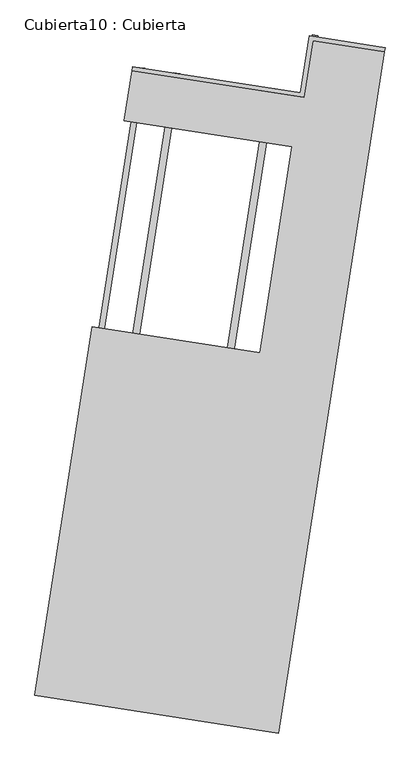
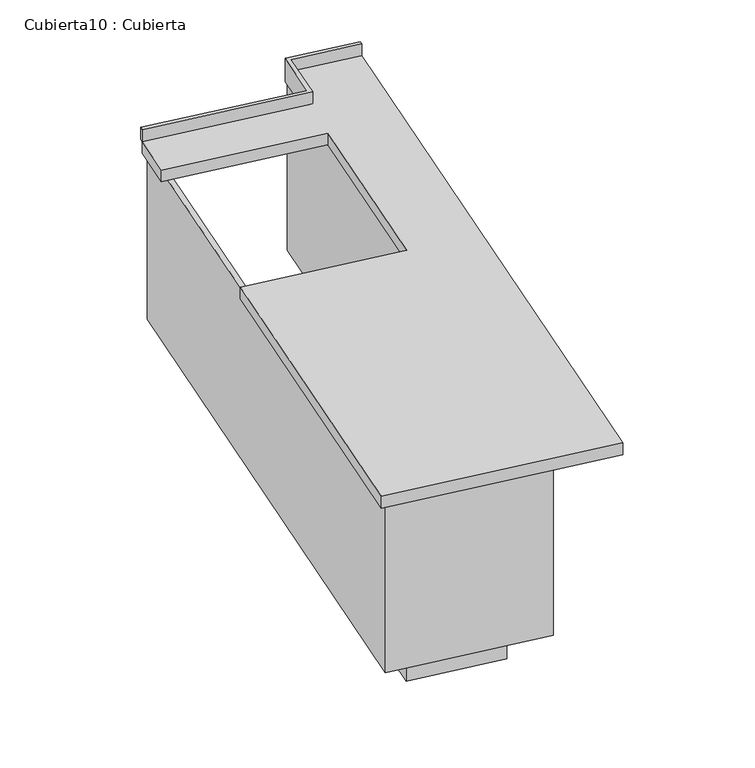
"""IFC4 building model written with IfcOpenShell, lengths in millimetres: furniture geometry, Cubierta10 : Cubierta."""

from ifc_helpers import new_model, si_unit, frame, origin, place, context, project, spatial, polyline, outline, extrude, faceted_brep, source, transform, mapped, element, save


def cubierta10_cubierta_652fd00e(model_context):
    return source(origin(), model_context, "Body", "SolidModel", [
        extrude(outline(polyline([(-43936.5908069, -74222.4568055), (-44307.1167938, -74164.7031034), (-43972.9153501, -72020.5925913), (-43948.2136174, -72024.4428381), (-44278.5648142, -74143.8516176), (-43957.4422928, -74193.904826), (-43627.0910965, -72074.4960484), (-43602.3893638, -72078.3462952), (-43936.5908069, -74222.4568055)])), frame((0.0, 0.0, 3200.0), z_axis=(0.0, 0.0, 1.0), x_axis=(1.0, 0.0, 0.0)), (0.0, 0.0, 1.0), 150.0),
        extrude(outline(polyline([(-44449.8766916, -74268.9605328), (-44096.4240136, -72001.3413564), (-44076.6626274, -72004.4215538), (-44427.035108, -74252.2793441), (-43849.0145663, -74342.3751197), (-43465.5299823, -71882.0825508), (-43445.7685961, -71885.1627483), (-43832.3333776, -74365.2167033), (-44449.8766916, -74268.9605328)])), frame((0.0, 0.0, 3350.0), z_axis=(0.0, 0.0, 1.0), x_axis=(1.0, 0.0, 0.0)), (0.0, 0.0, 1.0), 720.0),
        faceted_brep([(-44123.4358947, -72012.3121507, 4120.0), (-44151.9277388, -72195.1050847, 4120.0), (-43539.3247674, -72290.5912065, 4120.0), (-43656.3722714, -73041.5238811, 4120.0), (-44268.9752429, -72946.0377594, 4120.0), (-44478.4286712, -74289.8120186, 4120.0), (-43589.1662974, -74428.4209044, 4120.0), (-43201.8314658, -71943.4265982, 4120.0), (-43463.6698401, -71902.6139795, 4120.0), (-43496.0118958, -72110.1084205, 4120.0), (-43510.8329354, -72107.7982723, 4120.0), (-43589.1662974, -74428.4209044, 4070.0), (-44478.4286712, -74289.8120186, 4070.0), (-44268.9752429, -72946.0377594, 4070.0), (-43656.3722714, -73041.5238811, 4070.0), (-43539.3247674, -72290.5912065, 4070.0), (-44151.9277388, -72195.1050847, 4070.0), (-44123.4358947, -72012.3121507, 4070.0), (-43510.8329352, -72107.7982706, 4070.0), (-43476.1807316, -71885.4827917, 4070.0), (-43199.5213176, -71928.6055586, 4070.0), (-43199.5213176, -71928.6055585, 4170.0), (-43201.8314658, -71943.4265982, 4170.0), (-43476.1807316, -71885.4827917, 4170.0), (-43508.5227873, -72092.9772326, 4170.0), (-44121.125746, -71997.4911094, 4170.0), (-44123.4358942, -72012.312149, 4170.0), (-43496.0118958, -72110.1084205, 4170.0), (-43463.6698401, -71902.6139795, 4170.0), (-44121.125746, -71997.4911094, 4120.0), (-43508.5227873, -72092.9772326, 4120.0), (-43510.8329354, -72107.7982723, 4120.0)], [[[0, 1, 2, 3, 4, 5, 6, 7, 8, 9, 10]], [[11, 12, 13, 14, 15, 16, 17, 18, 19, 20]], [[21, 22, 7, 6, 11, 20]], [[22, 21, 23, 24, 25, 26, 27, 28]], [[7, 22, 28, 8]], [[0, 29, 30, 31]], [[21, 20, 19, 23]], [[26, 25, 29, 0]], [[5, 4, 13, 12]], [[6, 5, 12, 11]], [[1, 0, 17, 16]], [[2, 1, 16, 15]], [[3, 2, 15, 14]], [[4, 3, 14, 13]], [[24, 23, 19, 18, 31, 30]], [[28, 27, 9, 8]], [[25, 24, 30, 29]], [[27, 26, 0, 10, 9]], [[18, 17, 0, 31]]]),
    ])


if __name__ == "__main__":
    model = new_model("IFC4")
    model_context = context("Model", 3, world=origin())
    ifc_project = project(units=[si_unit("LENGTHUNIT", "METRE", prefix="MILLI")], contexts=[model_context])
    site = spatial("IfcSite", under=ifc_project)
    building = spatial("IfcBuilding", under=site)
    placement = place(None, origin())
    cubierta10_cubierta_shape = cubierta10_cubierta_652fd00e(model_context)
    element("IfcFurniture", 1, ObjectType="Cubierta10 : Cubierta", at=placement, inside=building, context=model_context, shape_type="MappedRepresentation", body=[
        mapped(cubierta10_cubierta_shape, transform((0.0, 0.0, 0.0), x_axis=(1.0, 0.0, 0.0), y_axis=(0.0, 1.0, 0.0), z_axis=(0.0, 0.0, 1.0))),
    ])
    save(model, "model.ifc")
